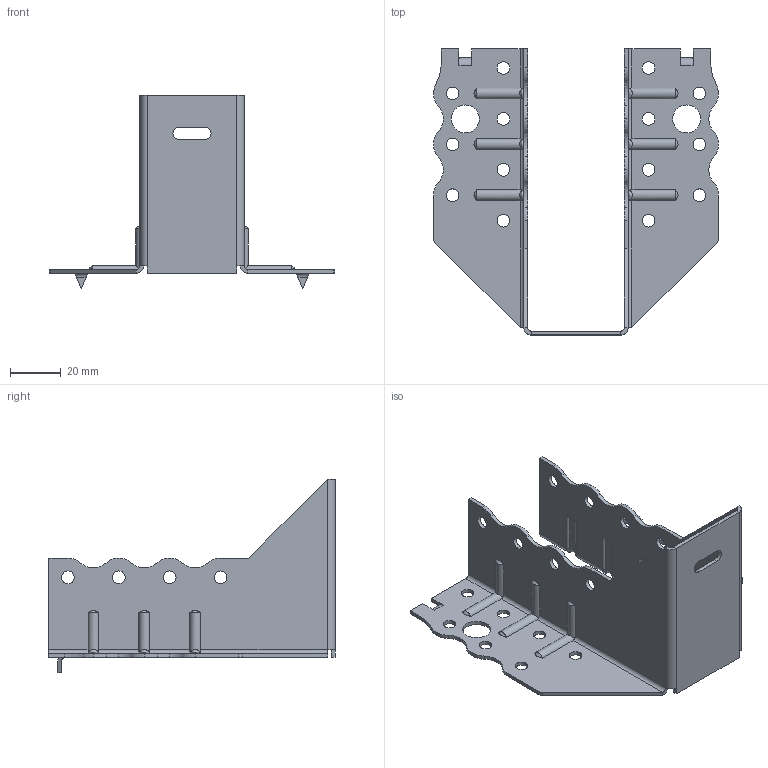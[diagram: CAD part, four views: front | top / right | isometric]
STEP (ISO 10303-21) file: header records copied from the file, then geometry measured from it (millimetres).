
FILE_DESCRIPTION (( 'STEP AP203' ), '1' );
FILE_NAME ('30655TOP.STEP', '2021-04-06T16:09:44', ( '' ), ( '' ), 'SwSTEP 2.0', 'SolidWorks 2013', '' );
FILE_SCHEMA (( 'CONFIG_CONTROL_DESIGN' ));
Length unit declared in the file: millimetre
Products named in the file (1): 30655TOP
Bounding box: 112 x 112.5 x 76 mm (x, y, z)
Volume: 26663.7 mm3; surface area: 37783.1 mm2
Topology: 1 solids, 1 shells, 265 faces, 697 edges, 434 vertices
Faces by surface type: cylinder 166, plane 75, torus 12, bspline 12
Entity records: 9676 total; most frequent: CARTESIAN_POINT 3023, ORIENTED_EDGE 1394, DIRECTION 1363, EDGE_CURVE 697, AXIS2_PLACEMENT_3D 498, VERTEX_POINT 434, LINE 367, VECTOR 367
